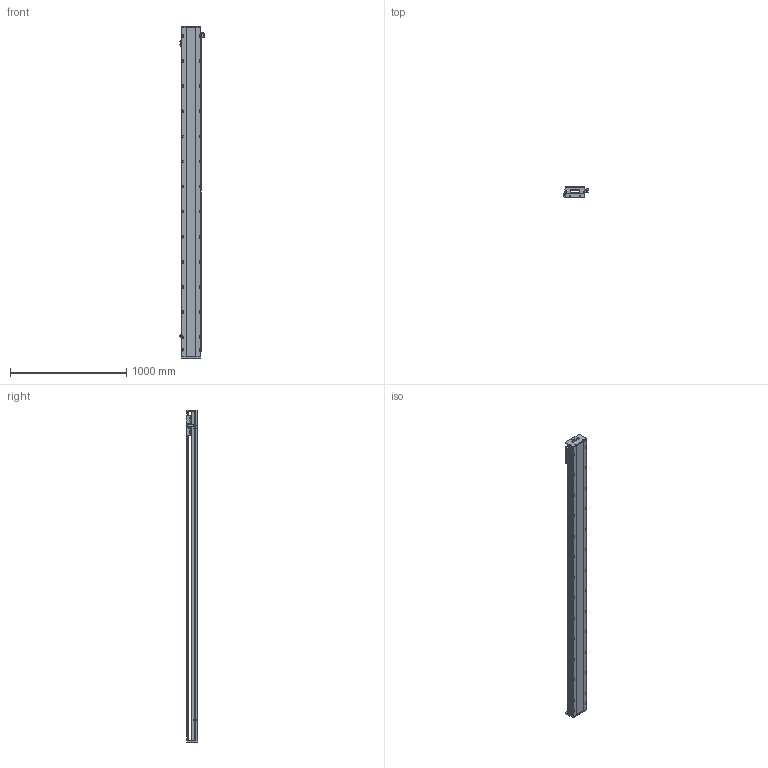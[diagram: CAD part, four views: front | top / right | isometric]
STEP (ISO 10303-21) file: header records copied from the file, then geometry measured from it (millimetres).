
FILE_DESCRIPTION (( 'STEP AP203' ), '1' );
FILE_NAME ('SKR17S-C1-S2586（简）.STEP', '2022-09-29T06:41:54', ( '' ), ( '' ), 'SwSTEP 2.0', 'SolidWorks 2018', '' );
FILE_SCHEMA (( 'CONFIG_CONTROL_DESIGN' ));
Length unit declared in the file: millimetre
Products named in the file (8): SKR17底座-C1-S2586（简); SKR17S-C1-S2586（简）; SKR17滑台-170L（简）; 棠掑假蚾輸; SIKO棠掑; EE-SX672; SKR17耜啣; 感应片（SKR12S-14S-17S）
Assembly tree (10 placements, depth 2):
  SKR17S-C1-S2586（简）
    SKR17底座-C1-S2586（简)
    SKR17滑台-170L（简）
    SIKO棠掑
    EE-SX672  x3
    SKR17耜啣  x2
    棠掑假蚾輸
    感应片（SKR12S-14S-17S）
Bounding box: 212.7 x 97 x 2856 mm (x, y, z)
Volume: 21691087 mm3; surface area: 2605453.3 mm2
Topology: 11 solids, 11 shells, 1473 faces, 4118 edges, 2647 vertices
Faces by surface type: cylinder 746, plane 579, cone 148
Entity records: 46982 total; most frequent: CARTESIAN_POINT 13337, ORIENTED_EDGE 7200, DIRECTION 6440, EDGE_CURVE 3600, VERTEX_POINT 2351, AXIS2_PLACEMENT_3D 2302, VECTOR 1836, LINE 1836
